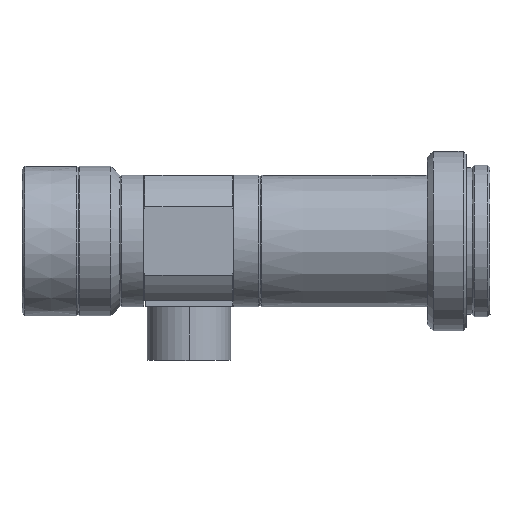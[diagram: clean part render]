
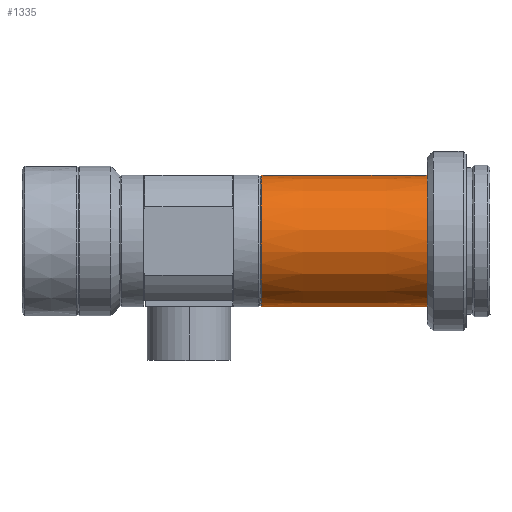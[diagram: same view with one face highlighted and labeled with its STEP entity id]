
A CAD part, top view. The second image highlights one B-rep face of the part: STEP entity #1335.
In plain terms, the highlighted conical face has half-angle 0 degrees and reference radius 11 mm.
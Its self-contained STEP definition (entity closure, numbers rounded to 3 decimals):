
#19 = AXIS2_PLACEMENT_3D ( 'NONE', #295, #3919, #2432 ) ;
#115 = ORIENTED_EDGE ( 'NONE', *, *, #1651, .F. ) ;
#295 = CARTESIAN_POINT ( 'NONE',  ( -24., 0., 0. ) ) ;
#475 = EDGE_CURVE ( 'NONE', #604, #925, #927, .T. ) ;
#485 = CARTESIAN_POINT ( 'NONE',  ( -24., 11., 0. ) ) ;
#554 = EDGE_CURVE ( 'NONE', #1171, #604, #1107, .T. ) ;
#604 = VERTEX_POINT ( 'NONE', #1881 ) ;
#606 = EDGE_LOOP ( 'NONE', ( #2896, #1394, #115, #1759 ) ) ;
#755 = CARTESIAN_POINT ( 'NONE',  ( -24., -11., 0. ) ) ;
#897 = CARTESIAN_POINT ( 'NONE',  ( -51.8, 11., 0. ) ) ;
#925 = VERTEX_POINT ( 'NONE', #897 ) ;
#927 = LINE ( 'NONE', #485, #2446 ) ;
#1032 = CARTESIAN_POINT ( 'NONE',  ( -51.8, 0., 0. ) ) ;
#1107 = CIRCLE ( 'NONE', #3276, 11. ) ;
#1158 = CARTESIAN_POINT ( 'NONE',  ( -24., 0., 0. ) ) ;
#1171 = VERTEX_POINT ( 'NONE', #755 ) ;
#1192 = AXIS2_PLACEMENT_3D ( 'NONE', #1032, #3144, #1341 ) ;
#1266 = DIRECTION ( 'NONE',  ( -1., 0., 0. ) ) ;
#1292 = CARTESIAN_POINT ( 'NONE',  ( -51.8, -11., 0. ) ) ;
#1335 = ADVANCED_FACE ( 'NONE', ( #2461 ), #3175, .T. ) ;
#1341 = DIRECTION ( 'NONE',  ( 0., -1., 0. ) ) ;
#1394 = ORIENTED_EDGE ( 'NONE', *, *, #475, .T. ) ;
#1400 = EDGE_CURVE ( 'NONE', #1171, #2640, #1950, .T. ) ;
#1449 = DIRECTION ( 'NONE',  ( 0., -1., 0. ) ) ;
#1651 = EDGE_CURVE ( 'NONE', #2640, #925, #2849, .T. ) ;
#1759 = ORIENTED_EDGE ( 'NONE', *, *, #1400, .F. ) ;
#1881 = CARTESIAN_POINT ( 'NONE',  ( -24., 11., 0. ) ) ;
#1950 = LINE ( 'NONE', #3075, #2042 ) ;
#2042 = VECTOR ( 'NONE', #1266, 1000. ) ;
#2432 = DIRECTION ( 'NONE',  ( 0., -1., 0. ) ) ;
#2446 = VECTOR ( 'NONE', #3195, 1000. ) ;
#2461 = FACE_OUTER_BOUND ( 'NONE', #606, .T. ) ;
#2640 = VERTEX_POINT ( 'NONE', #1292 ) ;
#2849 = CIRCLE ( 'NONE', #1192, 11. ) ;
#2896 = ORIENTED_EDGE ( 'NONE', *, *, #554, .T. ) ;
#3075 = CARTESIAN_POINT ( 'NONE',  ( -24., -11., 0. ) ) ;
#3144 = DIRECTION ( 'NONE',  ( -1., 0., 0. ) ) ;
#3175 = CONICAL_SURFACE ( 'NONE', #19, 11., 0. ) ;
#3195 = DIRECTION ( 'NONE',  ( -1., 0., 0. ) ) ;
#3264 = DIRECTION ( 'NONE',  ( -1., 0., 0. ) ) ;
#3276 = AXIS2_PLACEMENT_3D ( 'NONE', #1158, #3264, #1449 ) ;
#3919 = DIRECTION ( 'NONE',  ( -1., 0., 0. ) ) ;
